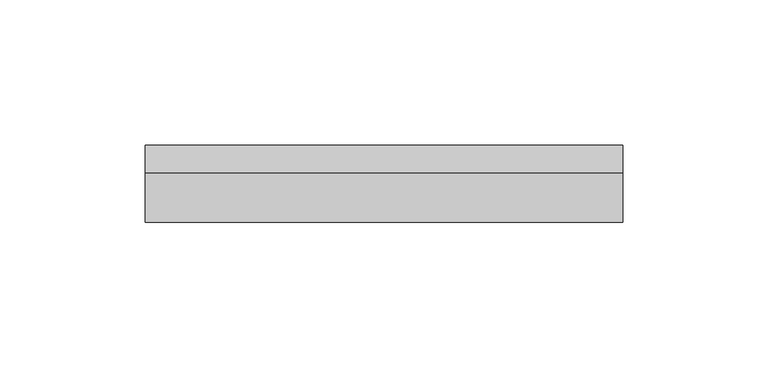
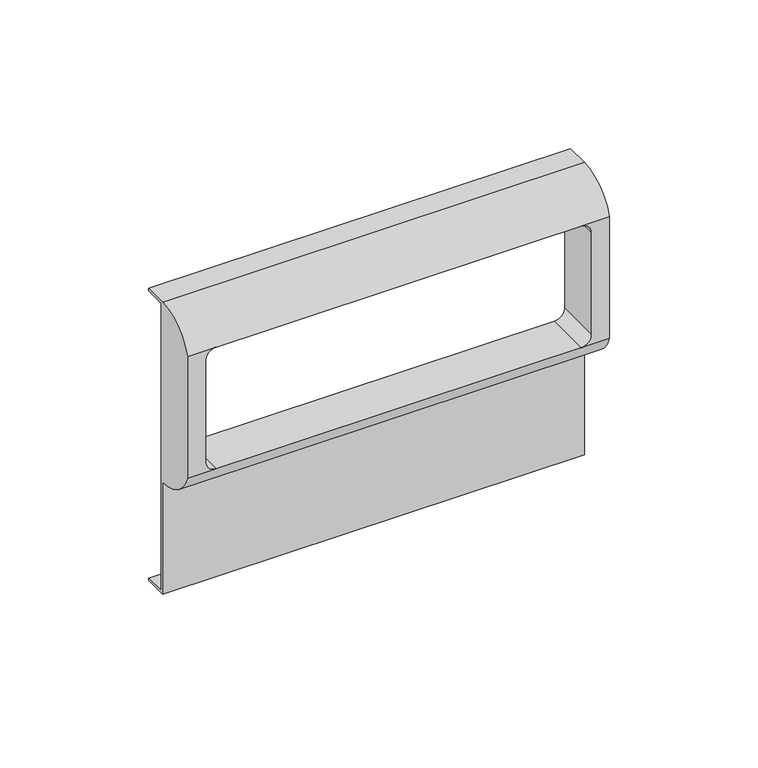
"""IFC4 building model written with IfcOpenShell, lengths in millimetres: proxy geometry."""

from ifc_helpers import new_model, si_unit, frame, origin, place, context, project, spatial, polyline, circle_curve, source, transform, mapped, element, save
from ifc_brep_helpers import plane_surface, cylinder_surface, revolved_surface, advanced_brep


def electrical_fixtures_99f2c199(model_context):
    return source(origin(), model_context, "Body", "AdvancedBrep", [
        advanced_brep(
        [(82.0, 8.4, 59.0), (82.0, 8.4, 60.0), (82.0, -1.0, 60.0), (82.0, -18.0, 48.0), (82.0, -18.0, -2.0), (82.0, -1.0, -14.0), (82.0, -1.0, -60.0), (82.0, 8.4, -60.0), (82.0, 8.4, -59.0), (82.0, 0.0, -59.0), (82.0, 0.0, 59.0), (-82.0, 8.4, 59.0), (-82.0, 0.0, 59.0), (-82.0, 0.0, -59.0), (-82.0, 8.4, -59.0), (-82.0, 8.4, -60.0), (-82.0, -1.0, -60.0), (-82.0, -1.0, -14.0), (-82.0, -18.0, -2.0), (-82.0, -18.0, 48.0), (-82.0, -1.0, 60.0), (-82.0, 8.4, 60.0), (70.9686648, -18.0, 48.0), (75.0, -18.0, 43.9686648), (75.0, -18.0, 2.0313352), (70.9686648, -18.0, -2.0), (-70.9686648, -18.0, -2.0), (-75.0, -18.0, 2.0313352), (-75.0, -18.0, 43.9686648), (-70.9686648, -18.0, 48.0), (70.9686648, 0.0, 48.0), (-70.9686648, 0.0, 48.0), (-75.0, 0.0, 43.9686648), (-75.0, 0.0, 2.0313352), (-70.9686648, 0.0, -2.0), (70.9686648, 0.0, -2.0), (75.0, 0.0, 2.0313352), (75.0, 0.0, 43.9686648)],
        [
            (0, 1),
            (1, 2),
            (2, 3, circle_curve(frame((82.0, -1.0, 41.9583333), z_axis=(1.0, 0.0, 0.0), x_axis=(0.0, 1.0, 0.0)), 18.0416667)),
            (3, 4),
            (4, 5, circle_curve(frame((82.0, -1.0, 4.0416667), z_axis=(1.0, 0.0, 0.0), x_axis=(0.0, 1.0, 0.0)), 18.0416667)),
            (5, 6),
            (6, 7),
            (7, 8),
            (8, 9),
            (9, 10),
            (10, 0),
            (11, 12),
            (12, 13),
            (13, 14),
            (14, 15),
            (15, 16),
            (16, 17),
            (17, 18, circle_curve(frame((-82.0, -1.0, 4.0416667), z_axis=(-1.0, 0.0, 0.0), x_axis=(0.0, 1.0, 0.0)), 18.0416667)),
            (18, 19),
            (19, 20, circle_curve(frame((-82.0, -1.0, 41.9583333), z_axis=(-1.0, 0.0, 0.0), x_axis=(0.0, 1.0, 0.0)), 18.0416667)),
            (20, 21),
            (21, 11),
            (0, 11),
            (21, 1),
            (20, 2),
            (3, 22),
            (22, 23, circle_curve(frame((70.9686648, -18.0, 43.9686648), z_axis=(0.0, 1.0, 0.0), x_axis=(1.0, 0.0, 0.0)), 4.0313352)),
            (23, 24),
            (24, 25, circle_curve(frame((70.9686648, -18.0, 2.0313352), z_axis=(0.0, 1.0, 0.0), x_axis=(1.0, 0.0, 0.0)), 4.0313352)),
            (25, 4),
            (18, 26),
            (26, 27, circle_curve(frame((-70.9686648, -18.0, 2.0313352), z_axis=(0.0, 1.0, 0.0), x_axis=(1.0, 0.0, 0.0)), 4.0313352)),
            (27, 28),
            (28, 29, circle_curve(frame((-70.9686648, -18.0, 43.9686648), z_axis=(0.0, 1.0, 0.0), x_axis=(1.0, 0.0, 0.0)), 4.0313352)),
            (29, 19),
            (5, 17),
            (16, 6),
            (15, 7),
            (14, 8),
            (13, 9),
            (12, 10),
            (30, 31),
            (31, 32, circle_curve(frame((-70.9686648, 0.0, 43.9686648), z_axis=(0.0, -1.0, 0.0), x_axis=(1.0, 0.0, 0.0)), 4.0313352)),
            (32, 33),
            (33, 34, circle_curve(frame((-70.9686648, 0.0, 2.0313352), z_axis=(0.0, -1.0, 0.0), x_axis=(1.0, 0.0, 0.0)), 4.0313352)),
            (34, 35),
            (35, 36, circle_curve(frame((70.9686648, 0.0, 2.0313352), z_axis=(0.0, -1.0, 0.0), x_axis=(1.0, 0.0, 0.0)), 4.0313352)),
            (36, 37),
            (37, 30, circle_curve(frame((70.9686648, 0.0, 43.9686648), z_axis=(0.0, -1.0, 0.0), x_axis=(1.0, 0.0, 0.0)), 4.0313352)),
            (29, 22),
            (25, 26),
            (29, 31),
            (30, 22),
            (28, 32),
            (27, 33),
            (26, 34),
            (25, 35),
            (24, 36),
            (23, 37),
        ],
        [
            plane_surface(frame((82.0, 8.4, 60.0), z_axis=(1.0, 0.0, 0.0), x_axis=(0.0, 0.0, 1.0))),
            plane_surface(frame((-82.0, 8.4, 60.0), z_axis=(-1.0, 0.0, 0.0), x_axis=(0.0, 0.0, -1.0))),
            plane_surface(frame((82.0, 8.4, 59.0), z_axis=(0.0, 1.0, 0.0), x_axis=(-1.0, 0.0, 0.0))),
            plane_surface(frame((82.0, 8.4, 60.0), z_axis=(0.0, 0.0, 1.0), x_axis=(-1.0, 0.0, 0.0))),
            plane_surface(frame((82.0, -18.0, 48.0), z_axis=(0.0, -1.0, 0.0), x_axis=(-1.0, 0.0, 0.0))),
            plane_surface(frame((82.0, -1.0, -14.0), z_axis=(0.0, -1.0, 0.0), x_axis=(-1.0, 0.0, 0.0))),
            plane_surface(frame((82.0, -1.0, -60.0), z_axis=(0.0, 0.0, -1.0), x_axis=(-1.0, 0.0, 0.0))),
            plane_surface(frame((82.0, 8.4, -60.0), z_axis=(0.0, 1.0, 0.0), x_axis=(-1.0, 0.0, 0.0))),
            plane_surface(frame((82.0, 8.4, -59.0), z_axis=(0.0, 0.0, 1.0), x_axis=(-1.0, 0.0, 0.0))),
            plane_surface(frame((82.0, 0.0, -59.0), z_axis=(0.0, 1.0, 0.0), x_axis=(-1.0, 0.0, 0.0))),
            plane_surface(frame((82.0, 0.0, 59.0), z_axis=(0.0, 0.0, -1.0), x_axis=(-1.0, 0.0, 0.0))),
            cylinder_surface(frame((-82.0, -1.0, 41.9583333), z_axis=(1.0, 0.0, 0.0), x_axis=(0.0, 1.0, 0.0)), 18.0416667),
            cylinder_surface(frame((-82.0, -1.0, 4.0416667), z_axis=(1.0, 0.0, 0.0), x_axis=(0.0, 1.0, 0.0)), 18.0416667),
            plane_surface(frame((70.9686648, -18.0, 48.0), z_axis=(0.0, 0.0, -1.0), x_axis=(0.0, 1.0, 0.0))),
            revolved_surface(polyline([(-66.9373296, -18.0, 43.9686648), (-66.9373296, 0.0, 43.9686648)]), (-70.9686648, 0.0, 43.9686648), (0.0, -1.0, 0.0)),
            plane_surface(frame((-75.0, -18.0, 43.9686648), z_axis=(1.0, 0.0, 0.0), x_axis=(0.0, 1.0, 0.0))),
            revolved_surface(polyline([(-66.9373296, -18.0, 2.0313352), (-66.9373296, 0.0, 2.0313352)]), (-70.9686648, 0.0, 2.0313352), (0.0, -1.0, 0.0)),
            plane_surface(frame((-70.9686648, -18.0, -2.0), z_axis=(0.0, 0.0, 1.0), x_axis=(0.0, 1.0, 0.0))),
            revolved_surface(polyline([(75.0, -18.0, 2.0313352), (75.0, 0.0, 2.0313352)]), (70.9686648, 0.0, 2.0313352), (0.0, -1.0, 0.0)),
            plane_surface(frame((75.0, -18.0, 2.0313352), z_axis=(-1.0, 0.0, 0.0), x_axis=(0.0, 1.0, 0.0))),
            revolved_surface(polyline([(75.0, -18.0, 43.9686648), (75.0, 0.0, 43.9686648)]), (70.9686648, 0.0, 43.9686648), (0.0, -1.0, 0.0)),
        ],
        [
            (0, [[1, 2, 3, 4, 5, 6, 7, 8, 9, 10, 11]]),
            (1, [[12, 13, 14, 15, 16, 17, 18, 19, 20, 21, 22]]),
            (2, [[-1, 23, -22, 24]]),
            (3, [[-2, -24, -21, 25]]),
            (4, [[-4, 26, 27, 28, 29, 30]]),
            (4, [[-19, 31, 32, 33, 34, 35]]),
            (5, [[-6, 36, -17, 37]]),
            (6, [[-7, -37, -16, 38]]),
            (7, [[-8, -38, -15, 39]]),
            (8, [[-9, -39, -14, 40]]),
            (9, [[-10, -40, -13, 41], [42, 43, 44, 45, 46, 47, 48, 49]]),
            (10, [[-11, -41, -12, -23]]),
            (11, [[-3, -25, -20, -35, 50, -26]]),
            (12, [[-5, -30, 51, -31, -18, -36]]),
            (13, [[52, -42, 53, -50]]),
            (14, [[-52, -34, 54, -43]]),
            (15, [[-54, -33, 55, -44]]),
            (16, [[-55, -32, 56, -45]]),
            (17, [[-56, -51, 57, -46]]),
            (18, [[-57, -29, 58, -47]]),
            (19, [[-58, -28, 59, -48]]),
            (20, [[-53, -49, -59, -27]]),
        ],
    ),
    ])


if __name__ == "__main__":
    model = new_model("IFC4")
    model_context = context("Model", 3, world=origin())
    ifc_project = project(units=[si_unit("LENGTHUNIT", "METRE", prefix="MILLI")], contexts=[model_context])
    site = spatial("IfcSite", under=ifc_project)
    building = spatial("IfcBuilding", under=site)
    placement = place(None, origin())
    electrical_fixtures_shape = electrical_fixtures_99f2c199(model_context)
    element("IfcBuildingElementProxy", 1, Name="КНС_РамкаСуппорт_ILC_DKC : Серия \"Viva\"", ObjectType="КНС_РамкаСуппорт_ILC_DKC : Серия \"Viva\"", at=placement, inside=building, context=model_context, shape_type="MappedRepresentation", body=[
        mapped(electrical_fixtures_shape, transform((0.0, 0.0, 0.0), x_axis=(1.0, 0.0, 0.0), y_axis=(0.0, 1.0, 0.0), z_axis=(0.0, 0.0, 1.0))),
    ])
    save(model, "model.ifc")
